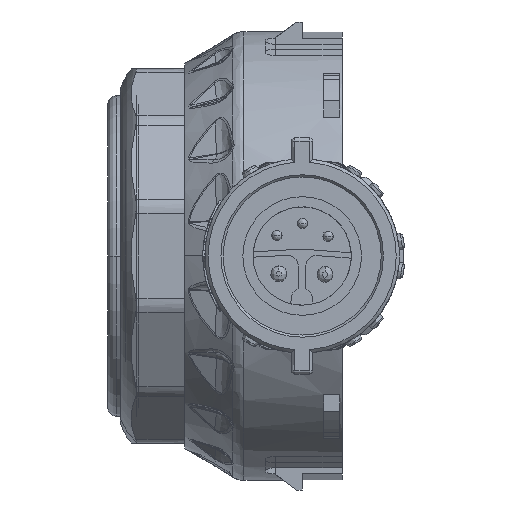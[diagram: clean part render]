
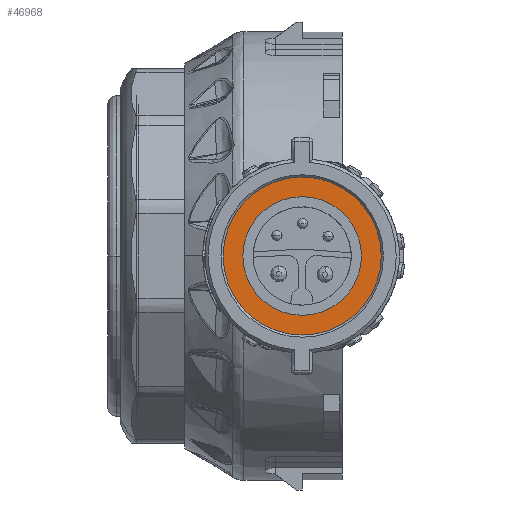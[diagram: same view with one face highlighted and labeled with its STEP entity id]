
A CAD part, left-side view. The second image highlights one B-rep face of the part: STEP entity #46968.
In plain terms, the highlighted planar face has unit normal (-1, 0, 0).
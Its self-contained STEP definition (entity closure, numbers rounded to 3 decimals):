
#2185 = CIRCLE ( 'NONE', #16841, 5.55 ) ;
#2267 = VERTEX_POINT ( 'NONE', #40970 ) ;
#3384 = AXIS2_PLACEMENT_3D ( 'NONE', #71387, #15600, #53744 ) ;
#8903 = CARTESIAN_POINT ( 'NONE',  ( 6.89, 0., 0. ) ) ;
#9502 = EDGE_CURVE ( 'NONE', #18529, #18529, #11550, .T. ) ;
#9927 = DIRECTION ( 'NONE',  ( 0., -1., 0. ) ) ;
#11550 = CIRCLE ( 'NONE', #3384, 7.4 ) ;
#15600 = DIRECTION ( 'NONE',  ( 1., 0., 0. ) ) ;
#16841 = AXIS2_PLACEMENT_3D ( 'NONE', #38110, #76590, #78067 ) ;
#17515 = DIRECTION ( 'NONE',  ( -1., 0., 0. ) ) ;
#18529 = VERTEX_POINT ( 'NONE', #72341 ) ;
#24646 = ORIENTED_EDGE ( 'NONE', *, *, #42947, .F. ) ;
#25992 = ORIENTED_EDGE ( 'NONE', *, *, #9502, .F. ) ;
#31827 = AXIS2_PLACEMENT_3D ( 'NONE', #8903, #17515, #9927 ) ;
#34985 = EDGE_LOOP ( 'NONE', ( #24646 ) ) ;
#38110 = CARTESIAN_POINT ( 'NONE',  ( 6.89, 0., 0. ) ) ;
#40453 = FACE_BOUND ( 'NONE', #34985, .T. ) ;
#40970 = CARTESIAN_POINT ( 'NONE',  ( 6.89, -5.55, 0. ) ) ;
#42947 = EDGE_CURVE ( 'NONE', #2267, #2267, #2185, .T. ) ;
#46755 = EDGE_LOOP ( 'NONE', ( #25992 ) ) ;
#46968 = ADVANCED_FACE ( 'NONE', ( #40453, #71331 ), #78410, .T. ) ;
#53744 = DIRECTION ( 'NONE',  ( 0., -1., 0. ) ) ;
#71331 = FACE_OUTER_BOUND ( 'NONE', #46755, .T. ) ;
#71387 = CARTESIAN_POINT ( 'NONE',  ( 6.89, 0., 0. ) ) ;
#72341 = CARTESIAN_POINT ( 'NONE',  ( 6.89, -7.4, 0. ) ) ;
#76590 = DIRECTION ( 'NONE',  ( -1., 0., 0. ) ) ;
#78067 = DIRECTION ( 'NONE',  ( 0., -1., 0. ) ) ;
#78410 = PLANE ( 'NONE',  #31827 ) ;
